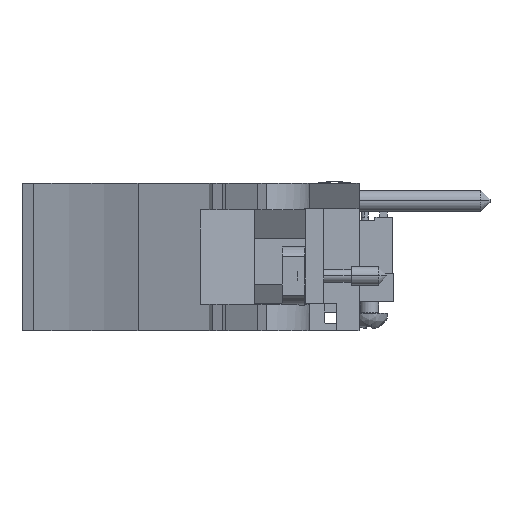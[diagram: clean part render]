
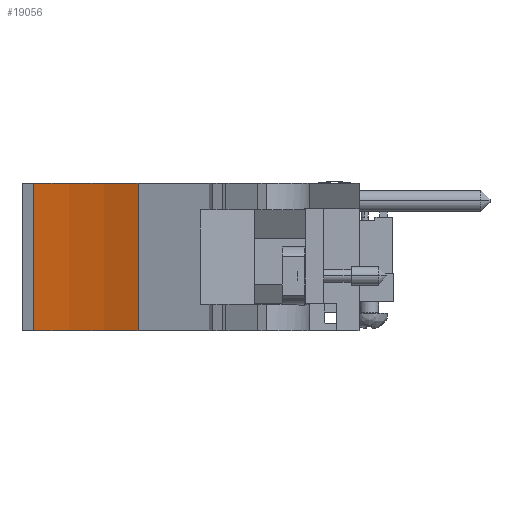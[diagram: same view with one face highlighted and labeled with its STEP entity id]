
A CAD part, front view. The second image highlights one B-rep face of the part: STEP entity #19056.
In plain terms, the highlighted cylindrical face has radius 51.46 mm (diameter 102.919 mm), a partial arc.
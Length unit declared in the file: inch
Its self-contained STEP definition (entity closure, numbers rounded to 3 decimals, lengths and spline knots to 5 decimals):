
#2834=DIRECTION('',(0.,0.,1.));
#2835=VECTOR('',#2834,0.788);
#2836=CARTESIAN_POINT('',(-1.09503,-4.12635,-0.893));
#2837=LINE('',#2836,#2835);
#2895=CARTESIAN_POINT('',(-1.97633,-5.95059,-0.893));
#2896=DIRECTION('',(0.,0.,1.));
#2897=DIRECTION('',(0.435,0.9,0.));
#2898=AXIS2_PLACEMENT_3D('',#2895,#2896,#2897);
#3226=CARTESIAN_POINT('',(-1.97633,-5.95059,-0.105));
#3227=DIRECTION('',(0.,0.,1.));
#3228=DIRECTION('',(0.435,0.9,0.));
#3229=AXIS2_PLACEMENT_3D('',#3226,#3227,#3228);
#3410=DIRECTION('',(0.,0.,1.));
#3411=VECTOR('',#3410,0.788);
#3412=CARTESIAN_POINT('',(-1.653,-3.95059,-0.893));
#3413=LINE('',#3412,#3411);
#13926=CARTESIAN_POINT('',(-1.09503,-4.12635,-0.893));
#13927=CARTESIAN_POINT('',(-1.653,-3.95059,-0.893));
#13928=VERTEX_POINT('',#13926);
#13929=VERTEX_POINT('',#13927);
#13930=CARTESIAN_POINT('',(-1.09503,-4.12635,-0.105));
#13931=CARTESIAN_POINT('',(-1.653,-3.95059,-0.105));
#13932=VERTEX_POINT('',#13930);
#13933=VERTEX_POINT('',#13931);
#19042=CARTESIAN_POINT('',(-1.97633,-5.95059,-0.105));
#19043=DIRECTION('',(0.,0.,1.));
#19044=DIRECTION('',(0.,1.,0.));
#19045=AXIS2_PLACEMENT_3D('',#19042,#19043,#19044);
#19046=CYLINDRICAL_SURFACE('',#19045,2.02597);
#19048=ORIENTED_EDGE('',*,*,#19047,.T.);
#19050=ORIENTED_EDGE('',*,*,#19049,.T.);
#19052=ORIENTED_EDGE('',*,*,#19051,.F.);
#19053=ORIENTED_EDGE('',*,*,#19026,.F.);
#19054=EDGE_LOOP('',(#19048,#19050,#19052,#19053));
#19055=FACE_OUTER_BOUND('',#19054,.F.);
#19056=ADVANCED_FACE('',(#19055),#19046,.F.);
#2899=CIRCLE('',#2898,2.02597);
#3230=CIRCLE('',#3229,2.02597);
#19026=EDGE_CURVE('',#13928,#13932,#2837,.T.);
#19047=EDGE_CURVE('',#13928,#13929,#2899,.T.);
#19049=EDGE_CURVE('',#13929,#13933,#3413,.T.);
#19051=EDGE_CURVE('',#13932,#13933,#3230,.T.);
